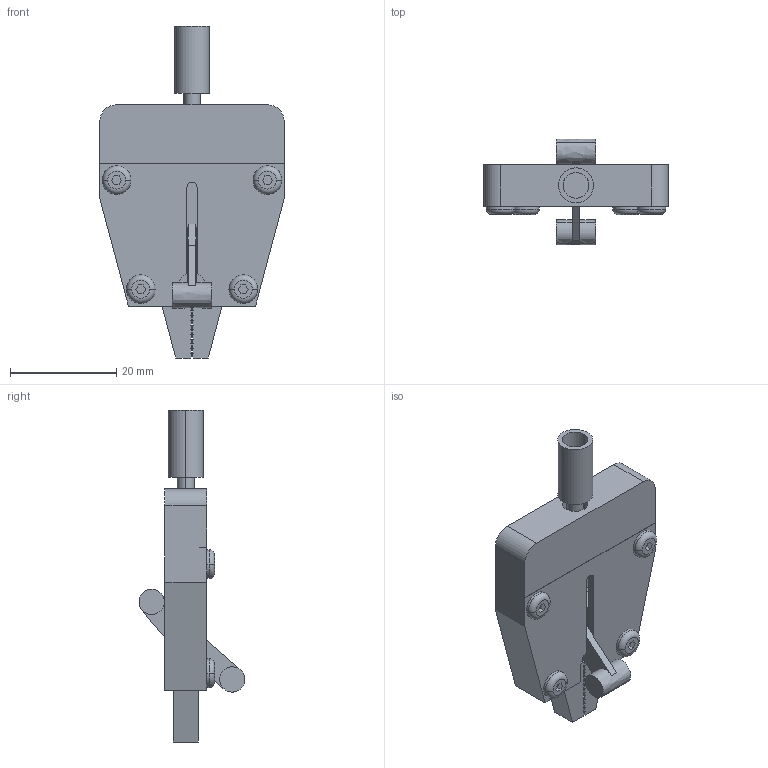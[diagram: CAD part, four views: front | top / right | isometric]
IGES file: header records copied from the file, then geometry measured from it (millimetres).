
Global section: file name: No Iges File Name specified; native system: Autodesk Inventor 2010; preprocessor: AutoDesk Inventor Iges Exporter R2010; author: mlampen; date: 20170419.145514; units: inch
Bounding box: 34.8 x 19.96 x 62.64 mm (x, y, z)
Volume: 8898.1 mm3; surface area: 7412.7 mm2
Topology: 9 solids, 9 shells, 209 faces, 535 edges, 353 vertices
Faces by surface type: plane 104, bspline 51, revolution 24, cylinder 22, torus 8
